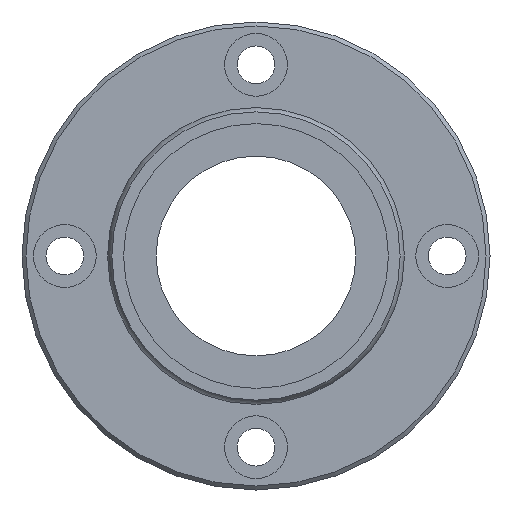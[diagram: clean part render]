
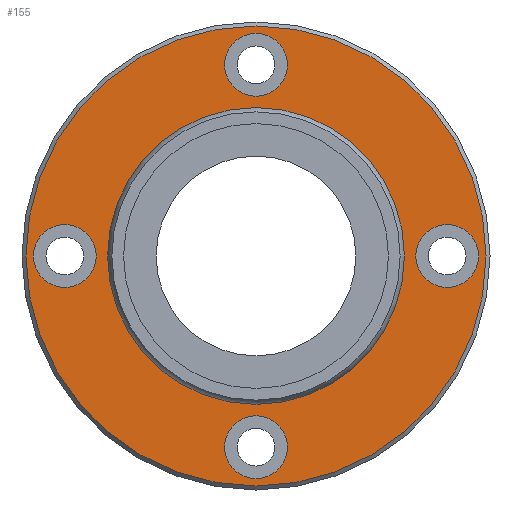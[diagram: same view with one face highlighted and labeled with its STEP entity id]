
A CAD part, left-side view. The second image highlights one B-rep face of the part: STEP entity #155.
In plain terms, the highlighted planar face has unit normal (-1, 0, 0).
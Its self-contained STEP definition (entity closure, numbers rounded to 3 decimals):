
#60=CARTESIAN_POINT('',(62.,0.,40.3));
#61=VERTEX_POINT('',#60);
#62=CARTESIAN_POINT('',(62.,0.0,0.0));
#63=DIRECTION('',(1.0,0.0,0.0));
#64=DIRECTION('',(0.0,0.0,-1.0));
#65=AXIS2_PLACEMENT_3D('',#62,#63,#64);
#66=CIRCLE('',#65,40.3);
#67=EDGE_CURVE('',#61,#61,#66,.T.);
#92=CARTESIAN_POINT('',(62.,0.0,33.357));
#93=DIRECTION('',(-1.0,0.0,0.0));
#94=DIRECTION('',(0.0,0.0,1.0));
#95=AXIS2_PLACEMENT_3D('',#92,#93,#94);
#96=PLANE('',#95);
#97=ORIENTED_EDGE('',*,*,#67,.F.);
#98=EDGE_LOOP('',(#97));
#99=FACE_OUTER_BOUND('',#98,.T.);
#100=CARTESIAN_POINT('',(62.,0.0,25.714));
#101=VERTEX_POINT('',#100);
#102=CARTESIAN_POINT('',(62.,0.0,0.0));
#103=DIRECTION('',(-1.0,0.0,0.0));
#104=DIRECTION('',(0.0,0.0,1.0));
#105=AXIS2_PLACEMENT_3D('',#102,#103,#104);
#106=CIRCLE('',#105,25.714);
#107=EDGE_CURVE('',#101,#101,#106,.T.);
#108=ORIENTED_EDGE('',*,*,#107,.F.);
#109=EDGE_LOOP('',(#108));
#110=FACE_BOUND('',#109,.T.);
#111=CARTESIAN_POINT('',(62.0,-28.,0.));
#112=VERTEX_POINT('',#111);
#113=CARTESIAN_POINT('',(62.,-33.5,0.));
#114=DIRECTION('',(1.0,0.0,0.0));
#115=DIRECTION('',(0.0,1.0,0.0));
#116=AXIS2_PLACEMENT_3D('',#113,#114,#115);
#117=CIRCLE('',#116,5.5);
#118=EDGE_CURVE('',#112,#112,#117,.T.);
#119=ORIENTED_EDGE('',*,*,#118,.T.);
#120=EDGE_LOOP('',(#119));
#121=FACE_BOUND('',#120,.T.);
#122=CARTESIAN_POINT('',(62.0,39.0,0.));
#123=VERTEX_POINT('',#122);
#124=CARTESIAN_POINT('',(62.,33.5,0.));
#125=DIRECTION('',(1.0,0.0,0.0));
#126=DIRECTION('',(0.0,1.0,0.0));
#127=AXIS2_PLACEMENT_3D('',#124,#125,#126);
#128=CIRCLE('',#127,5.5);
#129=EDGE_CURVE('',#123,#123,#128,.T.);
#130=ORIENTED_EDGE('',*,*,#129,.T.);
#131=EDGE_LOOP('',(#130));
#132=FACE_BOUND('',#131,.T.);
#133=CARTESIAN_POINT('',(62.0,5.5,33.5));
#134=VERTEX_POINT('',#133);
#135=CARTESIAN_POINT('',(62.,0.,33.5));
#136=DIRECTION('',(1.0,0.0,0.0));
#137=DIRECTION('',(0.0,1.0,0.0));
#138=AXIS2_PLACEMENT_3D('',#135,#136,#137);
#139=CIRCLE('',#138,5.5);
#140=EDGE_CURVE('',#134,#134,#139,.T.);
#141=ORIENTED_EDGE('',*,*,#140,.T.);
#142=EDGE_LOOP('',(#141));
#143=FACE_BOUND('',#142,.T.);
#144=CARTESIAN_POINT('',(62.0,5.5,-33.5));
#145=VERTEX_POINT('',#144);
#146=CARTESIAN_POINT('',(62.,0.,-33.5));
#147=DIRECTION('',(1.0,0.0,0.0));
#148=DIRECTION('',(0.0,1.0,0.0));
#149=AXIS2_PLACEMENT_3D('',#146,#147,#148);
#150=CIRCLE('',#149,5.5);
#151=EDGE_CURVE('',#145,#145,#150,.T.);
#152=ORIENTED_EDGE('',*,*,#151,.T.);
#153=EDGE_LOOP('',(#152));
#154=FACE_BOUND('',#153,.T.);
#155=ADVANCED_FACE('',(#99,#110,#121,#132,#143,#154),#96,.T.);
